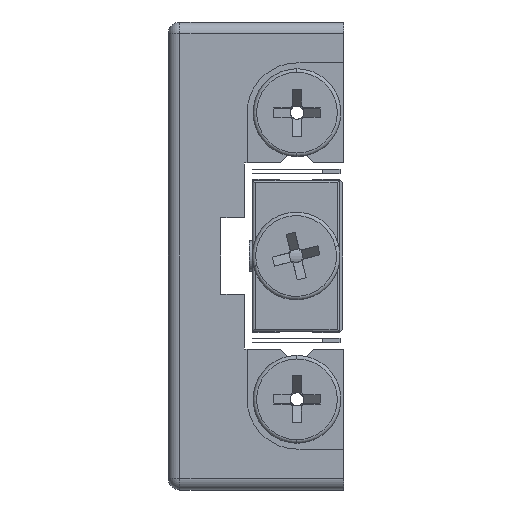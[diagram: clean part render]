
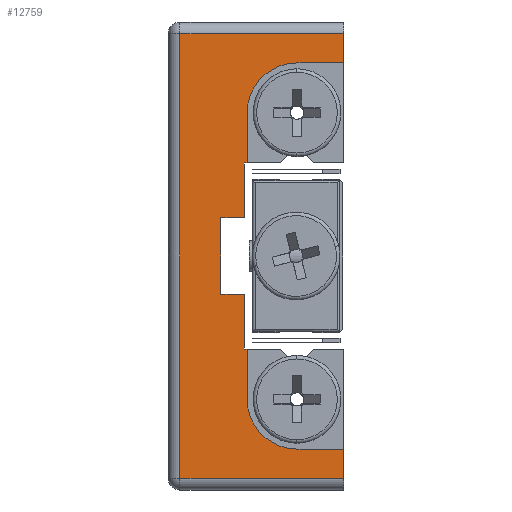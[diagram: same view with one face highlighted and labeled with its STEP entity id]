
A CAD part, left-side view. The second image highlights one B-rep face of the part: STEP entity #12759.
In plain terms, the highlighted planar face has unit normal (-1, 0, 0).
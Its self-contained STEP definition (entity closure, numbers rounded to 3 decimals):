
#68 = EDGE_CURVE ( 'NONE', #10772, #125, #14648, .T. ) ;
#125 = VERTEX_POINT ( 'NONE', #14300 ) ;
#246 = VERTEX_POINT ( 'NONE', #13765 ) ;
#476 = VECTOR ( 'NONE', #575, 1000. ) ;
#527 = VERTEX_POINT ( 'NONE', #7298 ) ;
#553 = DIRECTION ( 'NONE',  ( 0., 1., 0. ) ) ;
#575 = DIRECTION ( 'NONE',  ( 0., 1., 0. ) ) ;
#842 = CARTESIAN_POINT ( 'NONE',  ( -51.622, 14.881, -7.95 ) ) ;
#1086 = VECTOR ( 'NONE', #16805, 1000. ) ;
#1121 = CARTESIAN_POINT ( 'NONE',  ( -51.622, 6.381, -7.95 ) ) ;
#1137 = ORIENTED_EDGE ( 'NONE', *, *, #22358, .F. ) ;
#1264 = LINE ( 'NONE', #1121, #17172 ) ;
#1387 = VERTEX_POINT ( 'NONE', #14549 ) ;
#1460 = DIRECTION ( 'NONE',  ( -1., 0., 0. ) ) ;
#1502 = CARTESIAN_POINT ( 'NONE',  ( -51.622, 10.381, -16.5 ) ) ;
#1655 = LINE ( 'NONE', #2343, #20707 ) ;
#1708 = EDGE_CURVE ( 'NONE', #1829, #9975, #12085, .T. ) ;
#1829 = VERTEX_POINT ( 'NONE', #18302 ) ;
#1882 = CARTESIAN_POINT ( 'NONE',  ( -51.622, 20.381, -19. ) ) ;
#2000 = PLANE ( 'NONE',  #19828 ) ;
#2215 = ORIENTED_EDGE ( 'NONE', *, *, #23397, .T. ) ;
#2343 = CARTESIAN_POINT ( 'NONE',  ( -51.622, 14.631, -12.25 ) ) ;
#2468 = VERTEX_POINT ( 'NONE', #20331 ) ;
#2663 = CARTESIAN_POINT ( 'NONE',  ( -51.622, 14.881, 7.95 ) ) ;
#2694 = DIRECTION ( 'NONE',  ( 0., 0., -1. ) ) ;
#2932 = ORIENTED_EDGE ( 'NONE', *, *, #12943, .F. ) ;
#3183 = DIRECTION ( 'NONE',  ( 0., 0., 1. ) ) ;
#3289 = ORIENTED_EDGE ( 'NONE', *, *, #14311, .F. ) ;
#3524 = EDGE_CURVE ( 'NONE', #125, #1387, #3606, .T. ) ;
#3606 = LINE ( 'NONE', #14997, #13446 ) ;
#3627 = EDGE_CURVE ( 'NONE', #527, #10772, #16307, .T. ) ;
#3760 = DIRECTION ( 'NONE',  ( 0., 0., 1. ) ) ;
#3874 = DIRECTION ( 'NONE',  ( 1., 0., 0. ) ) ;
#4002 = CARTESIAN_POINT ( 'NONE',  ( -51.622, 16.881, 3.25 ) ) ;
#4221 = VERTEX_POINT ( 'NONE', #13605 ) ;
#4263 = ORIENTED_EDGE ( 'NONE', *, *, #13234, .F. ) ;
#4276 = CARTESIAN_POINT ( 'NONE',  ( -51.622, 10.381, 16.5 ) ) ;
#4279 = CARTESIAN_POINT ( 'NONE',  ( -51.622, 14.881, -3.25 ) ) ;
#4436 = LINE ( 'NONE', #1502, #9954 ) ;
#4477 = EDGE_CURVE ( 'NONE', #8287, #246, #1655, .T. ) ;
#4592 = VECTOR ( 'NONE', #18348, 1000. ) ;
#5241 = EDGE_CURVE ( 'NONE', #11057, #23140, #20137, .T. ) ;
#5769 = CARTESIAN_POINT ( 'NONE',  ( -51.622, 10.381, 12.25 ) ) ;
#5806 = VERTEX_POINT ( 'NONE', #19776 ) ;
#5933 = EDGE_CURVE ( 'NONE', #1387, #5806, #10352, .T. ) ;
#7241 = VERTEX_POINT ( 'NONE', #7268 ) ;
#7247 = CARTESIAN_POINT ( 'NONE',  ( -51.622, 14.631, -7.95 ) ) ;
#7268 = CARTESIAN_POINT ( 'NONE',  ( -51.622, 6.381, -19. ) ) ;
#7270 = LINE ( 'NONE', #842, #20824 ) ;
#7298 = CARTESIAN_POINT ( 'NONE',  ( -51.622, 14.631, 12.25 ) ) ;
#7633 = DIRECTION ( 'NONE',  ( 0., 0., -1. ) ) ;
#8050 = CARTESIAN_POINT ( 'NONE',  ( -51.622, 20.381, 19. ) ) ;
#8078 = ORIENTED_EDGE ( 'NONE', *, *, #5241, .T. ) ;
#8253 = EDGE_CURVE ( 'NONE', #23485, #8437, #4436, .T. ) ;
#8287 = VERTEX_POINT ( 'NONE', #7247 ) ;
#8437 = VERTEX_POINT ( 'NONE', #18841 ) ;
#8697 = CARTESIAN_POINT ( 'NONE',  ( -51.622, 6.381, -20. ) ) ;
#8954 = AXIS2_PLACEMENT_3D ( 'NONE', #12553, #1460, #14400 ) ;
#9240 = LINE ( 'NONE', #14015, #23329 ) ;
#9408 = CARTESIAN_POINT ( 'NONE',  ( -51.622, 21.381, 19. ) ) ;
#9453 = DIRECTION ( 'NONE',  ( 0., 0., -1. ) ) ;
#9546 = LINE ( 'NONE', #16532, #4592 ) ;
#9946 = CARTESIAN_POINT ( 'NONE',  ( -51.622, 14.631, 7.95 ) ) ;
#9954 = VECTOR ( 'NONE', #16303, 1000. ) ;
#9975 = VERTEX_POINT ( 'NONE', #22087 ) ;
#10352 = LINE ( 'NONE', #4002, #13501 ) ;
#10772 = VERTEX_POINT ( 'NONE', #9946 ) ;
#10841 = VECTOR ( 'NONE', #22077, 1000. ) ;
#10904 = EDGE_CURVE ( 'NONE', #7241, #8437, #16742, .T. ) ;
#10997 = EDGE_CURVE ( 'NONE', #23140, #21980, #9546, .T. ) ;
#11057 = VERTEX_POINT ( 'NONE', #20284 ) ;
#11073 = CARTESIAN_POINT ( 'NONE',  ( -51.622, 14.631, 12.25 ) ) ;
#11318 = EDGE_CURVE ( 'NONE', #21980, #7241, #9240, .T. ) ;
#11529 = ORIENTED_EDGE ( 'NONE', *, *, #11318, .T. ) ;
#11543 = CARTESIAN_POINT ( 'NONE',  ( -51.622, 10.381, -16.5 ) ) ;
#11783 = DIRECTION ( 'NONE',  ( 0., 1., 0. ) ) ;
#11784 = ORIENTED_EDGE ( 'NONE', *, *, #3627, .F. ) ;
#12006 = AXIS2_PLACEMENT_3D ( 'NONE', #5769, #18673, #7633 ) ;
#12085 = LINE ( 'NONE', #4276, #16972 ) ;
#12260 = CARTESIAN_POINT ( 'NONE',  ( -51.622, 16.881, -3.25 ) ) ;
#12427 = ORIENTED_EDGE ( 'NONE', *, *, #14007, .F. ) ;
#12553 = CARTESIAN_POINT ( 'NONE',  ( -51.622, 10.381, -12.25 ) ) ;
#12759 = ADVANCED_FACE ( 'NONE', ( #18362 ), #2000, .F. ) ;
#12880 = ORIENTED_EDGE ( 'NONE', *, *, #3524, .F. ) ;
#12943 = EDGE_CURVE ( 'NONE', #5806, #23278, #21527, .T. ) ;
#13234 = EDGE_CURVE ( 'NONE', #9975, #527, #19491, .T. ) ;
#13446 = VECTOR ( 'NONE', #9453, 1000. ) ;
#13501 = VECTOR ( 'NONE', #11783, 1000. ) ;
#13514 = ORIENTED_EDGE ( 'NONE', *, *, #1708, .F. ) ;
#13605 = CARTESIAN_POINT ( 'NONE',  ( -51.622, 14.881, -3.25 ) ) ;
#13765 = CARTESIAN_POINT ( 'NONE',  ( -51.622, 14.631, -12.25 ) ) ;
#13984 = EDGE_LOOP ( 'NONE', ( #23848, #11529, #16412, #14964, #1137, #15638, #12427, #14469, #3289, #2932, #20898, #12880, #14183, #11784, #4263, #13514, #2215, #8078 ) ) ;
#13999 = VECTOR ( 'NONE', #20882, 1000. ) ;
#14007 = EDGE_CURVE ( 'NONE', #2468, #8287, #1264, .T. ) ;
#14015 = CARTESIAN_POINT ( 'NONE',  ( -51.622, 21.381, -19. ) ) ;
#14067 = DIRECTION ( 'NONE',  ( 0., -1., 0. ) ) ;
#14183 = ORIENTED_EDGE ( 'NONE', *, *, #68, .F. ) ;
#14300 = CARTESIAN_POINT ( 'NONE',  ( -51.622, 14.881, 7.95 ) ) ;
#14311 = EDGE_CURVE ( 'NONE', #23278, #4221, #18873, .T. ) ;
#14339 = VECTOR ( 'NONE', #19340, 1000. ) ;
#14400 = DIRECTION ( 'NONE',  ( 0., 0., 1. ) ) ;
#14469 = ORIENTED_EDGE ( 'NONE', *, *, #17000, .F. ) ;
#14549 = CARTESIAN_POINT ( 'NONE',  ( -51.622, 14.881, 3.25 ) ) ;
#14648 = LINE ( 'NONE', #2663, #476 ) ;
#14833 = CARTESIAN_POINT ( 'NONE',  ( -51.622, 6.381, -20. ) ) ;
#14940 = CARTESIAN_POINT ( 'NONE',  ( -51.622, 21.381, -20. ) ) ;
#14964 = ORIENTED_EDGE ( 'NONE', *, *, #8253, .F. ) ;
#14997 = CARTESIAN_POINT ( 'NONE',  ( -51.622, 14.881, 3.25 ) ) ;
#15638 = ORIENTED_EDGE ( 'NONE', *, *, #4477, .F. ) ;
#15654 = CARTESIAN_POINT ( 'NONE',  ( -51.622, 16.881, -3.25 ) ) ;
#16303 = DIRECTION ( 'NONE',  ( 0., -1., 0. ) ) ;
#16307 = LINE ( 'NONE', #11073, #10841 ) ;
#16326 = DIRECTION ( 'NONE',  ( 0., 0., -1. ) ) ;
#16412 = ORIENTED_EDGE ( 'NONE', *, *, #10904, .T. ) ;
#16532 = CARTESIAN_POINT ( 'NONE',  ( -51.622, 20.381, -20. ) ) ;
#16742 = LINE ( 'NONE', #8697, #21626 ) ;
#16797 = DIRECTION ( 'NONE',  ( 0., 0., -1. ) ) ;
#16805 = DIRECTION ( 'NONE',  ( 0., 1., 0. ) ) ;
#16972 = VECTOR ( 'NONE', #553, 1000. ) ;
#17000 = EDGE_CURVE ( 'NONE', #4221, #2468, #7270, .T. ) ;
#17172 = VECTOR ( 'NONE', #14067, 1000. ) ;
#18167 = LINE ( 'NONE', #14833, #23085 ) ;
#18302 = CARTESIAN_POINT ( 'NONE',  ( -51.622, 6.381, 16.5 ) ) ;
#18348 = DIRECTION ( 'NONE',  ( 0., 0., -1. ) ) ;
#18362 = FACE_OUTER_BOUND ( 'NONE', #13984, .T. ) ;
#18673 = DIRECTION ( 'NONE',  ( -1., 0., 0. ) ) ;
#18841 = CARTESIAN_POINT ( 'NONE',  ( -51.622, 6.381, -16.5 ) ) ;
#18873 = LINE ( 'NONE', #4279, #13999 ) ;
#19340 = DIRECTION ( 'NONE',  ( 0., 0., -1. ) ) ;
#19383 = DIRECTION ( 'NONE',  ( 0., -1., 0. ) ) ;
#19491 = CIRCLE ( 'NONE', #12006, 4.25 ) ;
#19776 = CARTESIAN_POINT ( 'NONE',  ( -51.622, 16.881, 3.25 ) ) ;
#19828 = AXIS2_PLACEMENT_3D ( 'NONE', #14940, #3874, #16797 ) ;
#20137 = LINE ( 'NONE', #9408, #1086 ) ;
#20284 = CARTESIAN_POINT ( 'NONE',  ( -51.622, 6.381, 19. ) ) ;
#20331 = CARTESIAN_POINT ( 'NONE',  ( -51.622, 14.881, -7.95 ) ) ;
#20707 = VECTOR ( 'NONE', #16326, 1000. ) ;
#20824 = VECTOR ( 'NONE', #2694, 1000. ) ;
#20882 = DIRECTION ( 'NONE',  ( 0., -1., 0. ) ) ;
#20898 = ORIENTED_EDGE ( 'NONE', *, *, #5933, .F. ) ;
#21401 = CIRCLE ( 'NONE', #8954, 4.25 ) ;
#21527 = LINE ( 'NONE', #15654, #14339 ) ;
#21626 = VECTOR ( 'NONE', #3183, 1000. ) ;
#21980 = VERTEX_POINT ( 'NONE', #1882 ) ;
#22077 = DIRECTION ( 'NONE',  ( 0., 0., -1. ) ) ;
#22087 = CARTESIAN_POINT ( 'NONE',  ( -51.622, 10.381, 16.5 ) ) ;
#22358 = EDGE_CURVE ( 'NONE', #246, #23485, #21401, .T. ) ;
#23085 = VECTOR ( 'NONE', #3760, 1000. ) ;
#23140 = VERTEX_POINT ( 'NONE', #8050 ) ;
#23278 = VERTEX_POINT ( 'NONE', #12260 ) ;
#23329 = VECTOR ( 'NONE', #19383, 1000. ) ;
#23397 = EDGE_CURVE ( 'NONE', #1829, #11057, #18167, .T. ) ;
#23485 = VERTEX_POINT ( 'NONE', #11543 ) ;
#23848 = ORIENTED_EDGE ( 'NONE', *, *, #10997, .T. ) ;
